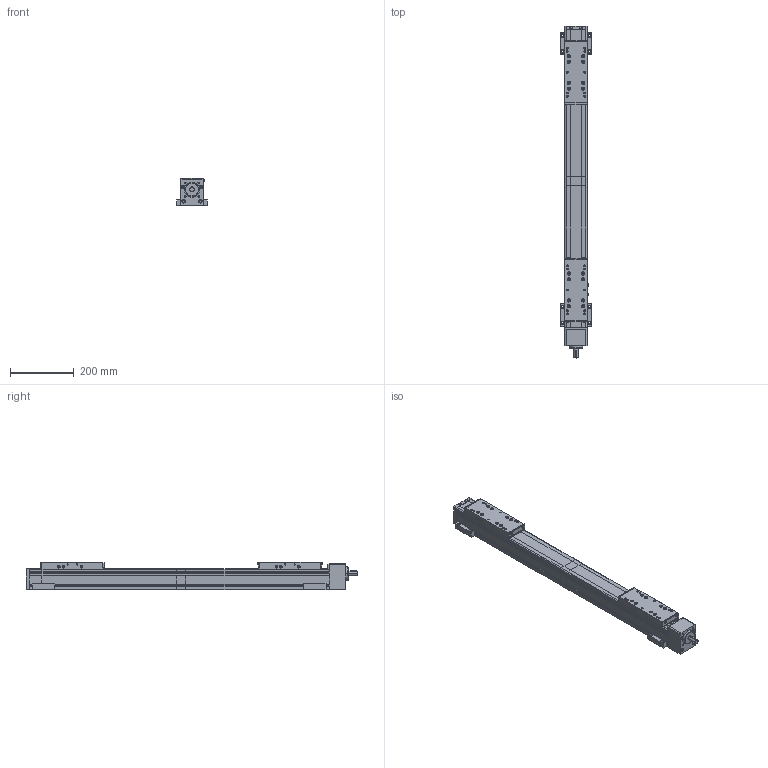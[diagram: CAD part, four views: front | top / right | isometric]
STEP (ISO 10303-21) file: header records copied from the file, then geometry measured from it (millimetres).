
FILE_DESCRIPTION(('Creo Elements/Direct Modeling STEP Export'),'2;1');
FILE_NAME('B070-C-SRS-RL-190-EN.stp','2020-02-24T16:18:37',(''),(''),'Creo Elements/Direct Modeling STEP processor for AP214 (Solid Model)','Creo Elements/Direct Modeling 20.1C 13-Oct-2019 (C) Parametric Technology GmbH','');
FILE_SCHEMA(('AUTOMOTIVE_DESIGN { 1 0 10303 214 1 1 1 1 }'));
Length unit declared in the file: millimetre
Products named in the file (27): NS2; NS2.1; Nutensteinpaar; Nutensteine; Beta070-C-SRS-RL-Grundkoerper-Teil2; BL1; BL1.1; Befestigungsleistenpaar; Befestigungsleistenpaar.1; Befestigungsleisten; Beta070-C-SRS-RL-Grundkoerper-Teil1; Endschalter_induktiv; Endschalter_induktiv.1; Endschalter_induktiv.2; Schaltfahne_10406; Linsenschraube_M4x8_EN_ISO_7380_1_10.9_vz_10243; Schaltfahne_10406_kpl; Endschalter-induktiv; Beta070-C-SRS-SSS-Schlitten; Abstreiferbuerste-Blau_10583; Schraube_M_4x8_ISO_7380_va_10252; Schraube_M_4x8_ISO_7380_va_10252.02; Abstreifer_kpl; Schlitten_kpl.02; B070-C-SRS-RL-190-EN
Assembly tree (29 placements, depth 4):
  B070-C-SRS-RL-190-EN
    Schlitten_kpl.02  x2
      Abstreifer_kpl
        Schraube_M_4x8_ISO_7380_va_10252.02
        Schraube_M_4x8_ISO_7380_va_10252
        Abstreiferbuerste-Blau_10583
      Beta070-C-SRS-SSS-Schlitten
    Endschalter-induktiv
      Schaltfahne_10406_kpl
        Linsenschraube_M4x8_EN_ISO_7380_1_10.9_vz_10243  x2
        Schaltfahne_10406
      Endschalter_induktiv.2
      Endschalter_induktiv.1
      Endschalter_induktiv
    Beta070-C-SRS-RL-Grundkoerper-Teil1
    Befestigungsleisten
      Befestigungsleistenpaar.1
        BL1.1
        BL1
      Befestigungsleistenpaar
        BL1.1
        BL1
    Beta070-C-SRS-RL-Grundkoerper-Teil2
    Nutensteine
      Nutensteinpaar
        NS2.1
        NS2
Bounding box: 96 x 1038 x 85 mm (x, y, z)
Volume: 5027362.2 mm3; surface area: 500750.8 mm2
Topology: 28 solids, 28 shells, 1918 faces, 4397 edges, 2665 vertices
Faces by surface type: plane 1008, cylinder 588, cone 248, torus 54, sphere 20
Entity records: 40914 total; most frequent: CARTESIAN_POINT 10627, ORIENTED_EDGE 6402, DIRECTION 5326, EDGE_CURVE 3201, VERTEX_POINT 1985, VECTOR 1826, LINE 1826, AXIS2_PLACEMENT_3D 1750
